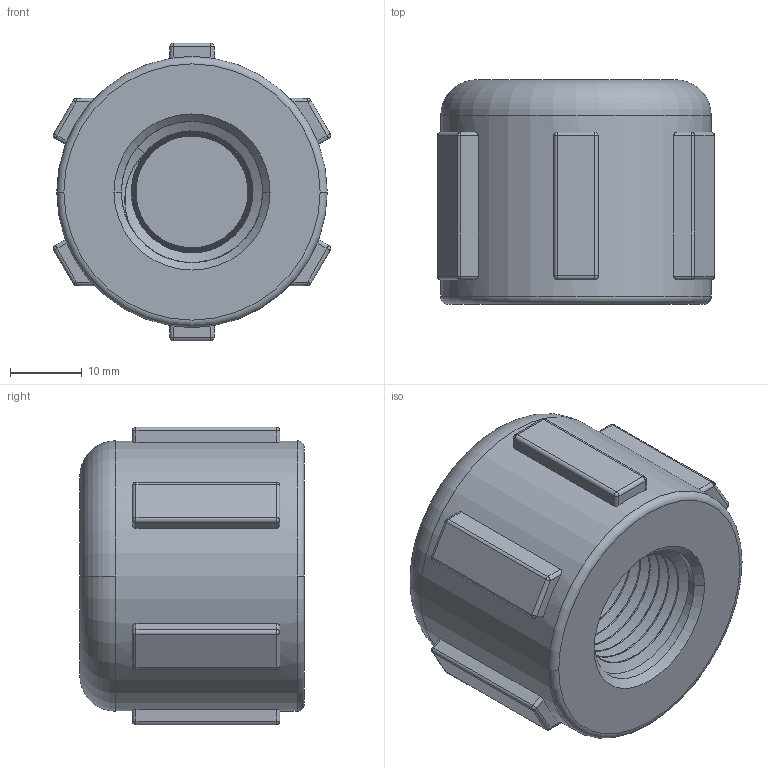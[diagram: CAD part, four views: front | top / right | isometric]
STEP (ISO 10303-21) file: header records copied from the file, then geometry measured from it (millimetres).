
FILE_DESCRIPTION(/* description */ ('Alibre Inc.'),/* implementation_level */ '2;1');
FILE_NAME(/* name */ 'export0',/* time_stamp */ '2019-10-09T09:38:15-04:00',/* author */ (''),/* organization */ (''),/* preprocessor_version */ 'ST-DEVELOPER v17',/* originating_system */ 'Alibre',/* authorisation */ '');
FILE_SCHEMA (('CONFIG_CONTROL_DESIGN'));
Length unit declared in the file: inch
Products named in the file (1): 200-62462-1000C
Bounding box: 38.75 x 31.35 x 41.59 mm (x, y, z)
Volume: 29875 mm3; surface area: 8584.4 mm2
Topology: 1 solids, 1 shells, 153 faces, 366 edges, 204 vertices
Faces by surface type: cylinder 49, plane 33, cone 28, sphere 24, bspline 15, torus 4
Full cylindrical faces by diameter (mm): 37.8 x1
Entity records: 16099 total; most frequent: CARTESIAN_POINT 12925, ORIENTED_EDGE 710, DIRECTION 529, EDGE_CURVE 355, VERTEX_POINT 216, AXIS2_PLACEMENT_3D 211, EDGE_LOOP 165, FACE_BOUND 165
